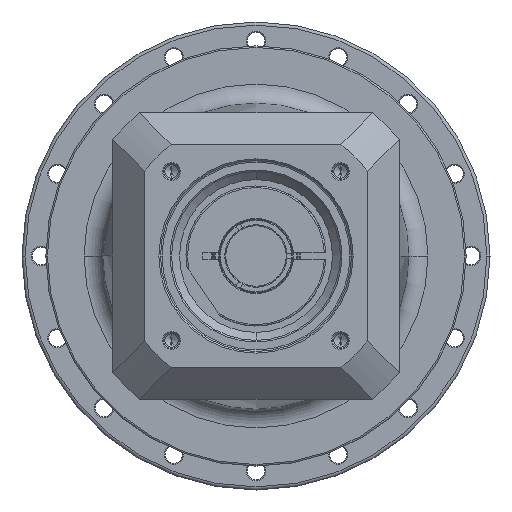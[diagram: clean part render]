
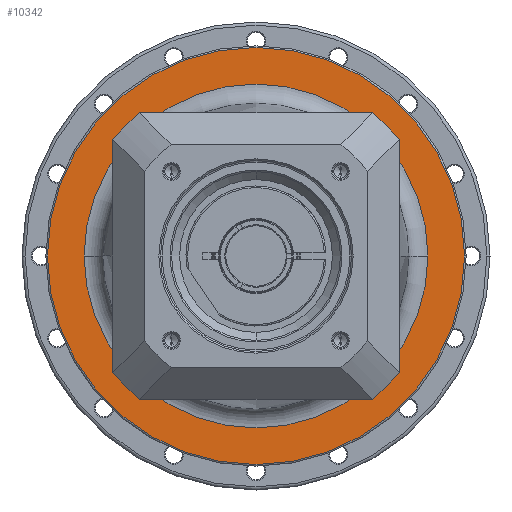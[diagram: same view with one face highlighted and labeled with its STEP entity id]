
A CAD part, left-side view. The second image highlights one B-rep face of the part: STEP entity #10342.
In plain terms, the highlighted planar face has unit normal (-1, 0, 0) as drawn and (1, 0, 0) by its records, which use the part's own axes.
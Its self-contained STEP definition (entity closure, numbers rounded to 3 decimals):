
#9882=CARTESIAN_POINT('',(-40.,0.,0.));
#9883=DIRECTION('',(-1.,0.,0.));
#9884=DIRECTION('',(0.,1.,0.));
#9885=AXIS2_PLACEMENT_3D('',#9882,#9883,#9884);
#9892=CARTESIAN_POINT('',(-40.,0.,0.));
#9893=DIRECTION('',(1.,0.,0.));
#9894=DIRECTION('',(0.,1.,0.));
#9895=AXIS2_PLACEMENT_3D('',#9892,#9893,#9894);
#9897=CARTESIAN_POINT('',(-40.,0.,0.));
#9898=DIRECTION('',(-1.,0.,0.));
#9899=DIRECTION('',(0.,-1.,0.));
#9900=AXIS2_PLACEMENT_3D('',#9897,#9898,#9899);
#9902=CARTESIAN_POINT('',(-40.,0.,0.));
#9903=DIRECTION('',(-1.,0.,0.));
#9904=DIRECTION('',(0.,1.,0.));
#9905=AXIS2_PLACEMENT_3D('',#9902,#9903,#9904);
#10027=CARTESIAN_POINT('',(-40.,-65.5,0.));
#10028=CARTESIAN_POINT('',(-40.,65.5,0.));
#10029=VERTEX_POINT('',#10027);
#10030=VERTEX_POINT('',#10028);
#10055=CARTESIAN_POINT('',(-40.,54.,0.));
#10057=VERTEX_POINT('',#10055);
#10059=CARTESIAN_POINT('',(-40.,-54.,0.));
#10061=VERTEX_POINT('',#10059);
#10327=CARTESIAN_POINT('',(-40.,0.,0.));
#10328=DIRECTION('',(1.,0.,0.));
#10329=DIRECTION('',(0.,-1.,0.));
#10330=AXIS2_PLACEMENT_3D('',#10327,#10328,#10329);
#10331=PLANE('',#10330);
#10333=ORIENTED_EDGE('',*,*,#10332,.T.);
#10335=ORIENTED_EDGE('',*,*,#10334,.T.);
#10336=EDGE_LOOP('',(#10333,#10335));
#10337=FACE_OUTER_BOUND('',#10336,.F.);
#10338=ORIENTED_EDGE('',*,*,#10322,.T.);
#10339=ORIENTED_EDGE('',*,*,#10306,.F.);
#10340=EDGE_LOOP('',(#10338,#10339));
#10341=FACE_BOUND('',#10340,.F.);
#10342=ADVANCED_FACE('',(#10337,#10341),#10331,.T.);
#9886=CIRCLE('',#9885,54.);
#9896=CIRCLE('',#9895,54.);
#9901=CIRCLE('',#9900,65.5);
#9906=CIRCLE('',#9905,65.5);
#10306=EDGE_CURVE('',#10057,#10061,#9886,.T.);
#10322=EDGE_CURVE('',#10057,#10061,#9896,.T.);
#10332=EDGE_CURVE('',#10029,#10030,#9901,.T.);
#10334=EDGE_CURVE('',#10030,#10029,#9906,.T.);
